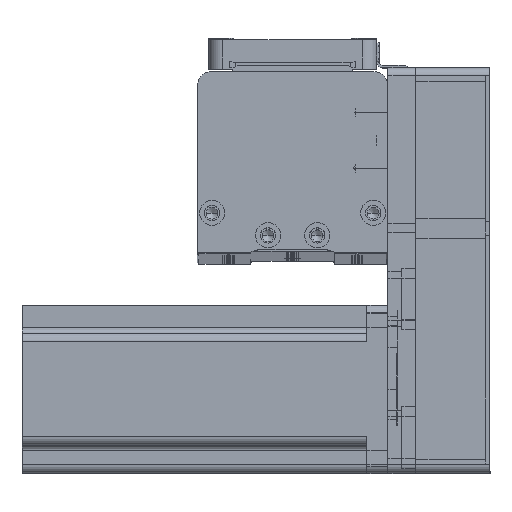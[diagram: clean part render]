
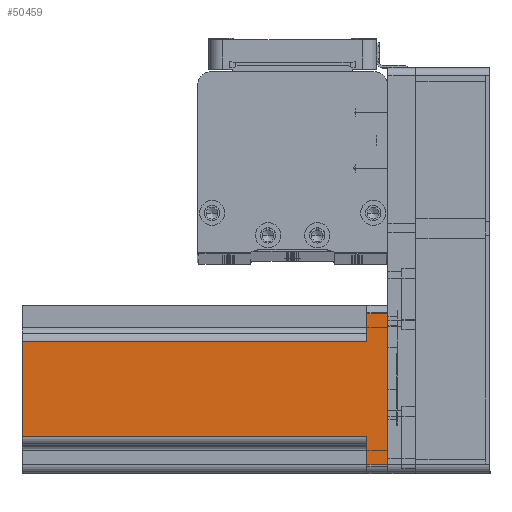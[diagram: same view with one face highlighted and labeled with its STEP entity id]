
A CAD part, top view. The second image highlights one B-rep face of the part: STEP entity #50459.
In plain terms, the highlighted planar face has unit normal (0, 0, 1) as drawn and (0, 1, 0) by its records, which use the part's own axes.
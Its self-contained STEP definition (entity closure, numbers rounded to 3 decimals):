
#149 = PLANE ( 'NONE',  #30713 ) ;
#326 = DIRECTION ( 'NONE',  ( 0., -1., 0. ) ) ;
#563 = CARTESIAN_POINT ( 'NONE',  ( -20., 30., 7.5 ) ) ;
#2766 = ORIENTED_EDGE ( 'NONE', *, *, #45792, .F. ) ;
#2984 = VERTEX_POINT ( 'NONE', #15011 ) ;
#4975 = LINE ( 'NONE', #42044, #25728 ) ;
#6015 = CARTESIAN_POINT ( 'NONE',  ( 17., 30., 130.7 ) ) ;
#6723 = VERTEX_POINT ( 'NONE', #28744 ) ;
#8436 = EDGE_CURVE ( 'NONE', #53714, #41802, #51114, .T. ) ;
#9172 = LINE ( 'NONE', #45337, #19569 ) ;
#10176 = EDGE_LOOP ( 'NONE', ( #52608, #22685, #2766, #13737, #48150, #56181, #47868, #34484 ) ) ;
#10251 = CARTESIAN_POINT ( 'NONE',  ( -17., 30., 130.7 ) ) ;
#11797 = CARTESIAN_POINT ( 'NONE',  ( 17., 30., 130.7 ) ) ;
#11902 = EDGE_CURVE ( 'NONE', #12947, #12945, #9172, .T. ) ;
#12945 = VERTEX_POINT ( 'NONE', #49659 ) ;
#12947 = VERTEX_POINT ( 'NONE', #14277 ) ;
#13737 = ORIENTED_EDGE ( 'NONE', *, *, #30061, .T. ) ;
#14277 = CARTESIAN_POINT ( 'NONE',  ( -27., 30., 0. ) ) ;
#15011 = CARTESIAN_POINT ( 'NONE',  ( 17., 30., 7.5 ) ) ;
#15861 = VECTOR ( 'NONE', #54490, 1000. ) ;
#15995 = VECTOR ( 'NONE', #20329, 1000. ) ;
#16555 = CARTESIAN_POINT ( 'NONE',  ( 30., 30., 0. ) ) ;
#17494 = VERTEX_POINT ( 'NONE', #6015 ) ;
#19569 = VECTOR ( 'NONE', #23309, 1000. ) ;
#19879 = VECTOR ( 'NONE', #22627, 1000. ) ;
#20329 = DIRECTION ( 'NONE',  ( -1., 0., 0. ) ) ;
#20494 = DIRECTION ( 'NONE',  ( 0., 0., -1. ) ) ;
#21272 = LINE ( 'NONE', #563, #19879 ) ;
#22627 = DIRECTION ( 'NONE',  ( 1., 0., 0. ) ) ;
#22685 = ORIENTED_EDGE ( 'NONE', *, *, #8436, .T. ) ;
#23309 = DIRECTION ( 'NONE',  ( 0., 0., 1. ) ) ;
#25728 = VECTOR ( 'NONE', #55384, 1000. ) ;
#26823 = CARTESIAN_POINT ( 'NONE',  ( 30., 30., 130.7 ) ) ;
#28744 = CARTESIAN_POINT ( 'NONE',  ( 27., 30., 0. ) ) ;
#29455 = EDGE_CURVE ( 'NONE', #6723, #12947, #46882, .T. ) ;
#30061 = EDGE_CURVE ( 'NONE', #17494, #2984, #32277, .T. ) ;
#30713 = AXIS2_PLACEMENT_3D ( 'NONE', #26823, #326, #31288 ) ;
#31288 = DIRECTION ( 'NONE',  ( 1., 0., 0. ) ) ;
#32277 = LINE ( 'NONE', #11797, #48172 ) ;
#33761 = VECTOR ( 'NONE', #34314, 1000. ) ;
#33971 = VECTOR ( 'NONE', #48018, 1000. ) ;
#34314 = DIRECTION ( 'NONE',  ( -1., 0., 0. ) ) ;
#34484 = ORIENTED_EDGE ( 'NONE', *, *, #11902, .T. ) ;
#37580 = CARTESIAN_POINT ( 'NONE',  ( -17., 30., 130.7 ) ) ;
#37954 = EDGE_CURVE ( 'NONE', #52782, #2984, #48483, .T. ) ;
#41802 = VERTEX_POINT ( 'NONE', #37580 ) ;
#42044 = CARTESIAN_POINT ( 'NONE',  ( 27., 30., 130.7 ) ) ;
#44692 = EDGE_CURVE ( 'NONE', #52782, #6723, #4975, .T. ) ;
#45337 = CARTESIAN_POINT ( 'NONE',  ( -27., 30., 130.7 ) ) ;
#45792 = EDGE_CURVE ( 'NONE', #17494, #41802, #48349, .T. ) ;
#46765 = CARTESIAN_POINT ( 'NONE',  ( 30., 30., 130.7 ) ) ;
#46882 = LINE ( 'NONE', #16555, #33761 ) ;
#47614 = CARTESIAN_POINT ( 'NONE',  ( -17., 30., 7.5 ) ) ;
#47868 = ORIENTED_EDGE ( 'NONE', *, *, #29455, .T. ) ;
#48018 = DIRECTION ( 'NONE',  ( -1., 0., 0. ) ) ;
#48150 = ORIENTED_EDGE ( 'NONE', *, *, #37954, .F. ) ;
#48172 = VECTOR ( 'NONE', #20494, 1000. ) ;
#48349 = LINE ( 'NONE', #46765, #15995 ) ;
#48483 = LINE ( 'NONE', #56712, #33971 ) ;
#49466 = CARTESIAN_POINT ( 'NONE',  ( 27., 30., 7.5 ) ) ;
#49659 = CARTESIAN_POINT ( 'NONE',  ( -27., 30., 7.5 ) ) ;
#50459 = ADVANCED_FACE ( 'NONE', ( #51789 ), #149, .F. ) ;
#51114 = LINE ( 'NONE', #10251, #15861 ) ;
#51789 = FACE_OUTER_BOUND ( 'NONE', #10176, .T. ) ;
#52608 = ORIENTED_EDGE ( 'NONE', *, *, #56105, .T. ) ;
#52782 = VERTEX_POINT ( 'NONE', #49466 ) ;
#53714 = VERTEX_POINT ( 'NONE', #47614 ) ;
#54490 = DIRECTION ( 'NONE',  ( 0., 0., 1. ) ) ;
#55384 = DIRECTION ( 'NONE',  ( 0., 0., -1. ) ) ;
#56105 = EDGE_CURVE ( 'NONE', #12945, #53714, #21272, .T. ) ;
#56181 = ORIENTED_EDGE ( 'NONE', *, *, #44692, .T. ) ;
#56712 = CARTESIAN_POINT ( 'NONE',  ( 20., 30., 7.5 ) ) ;
